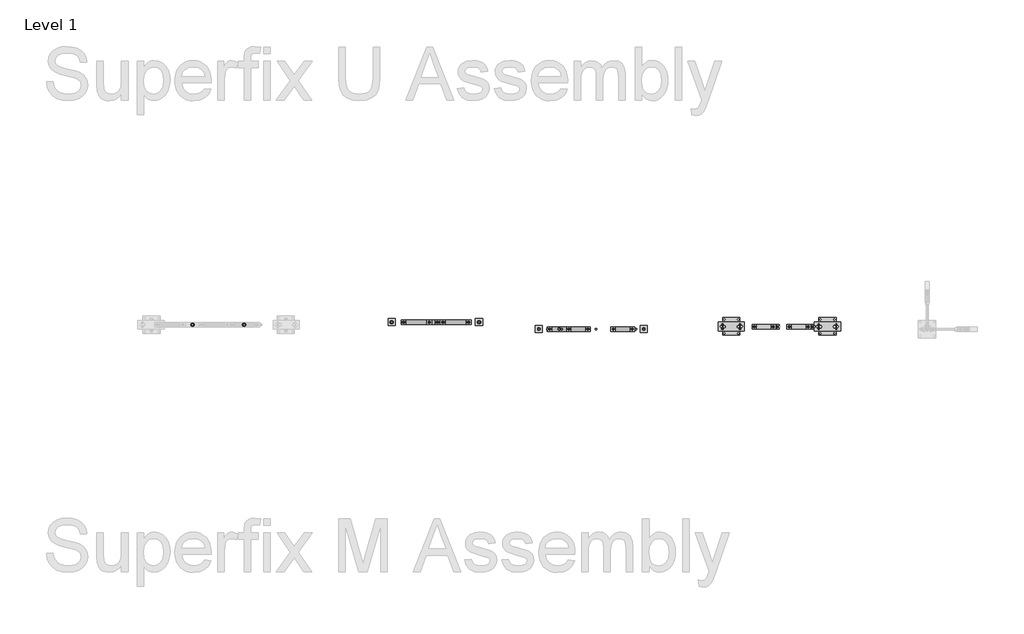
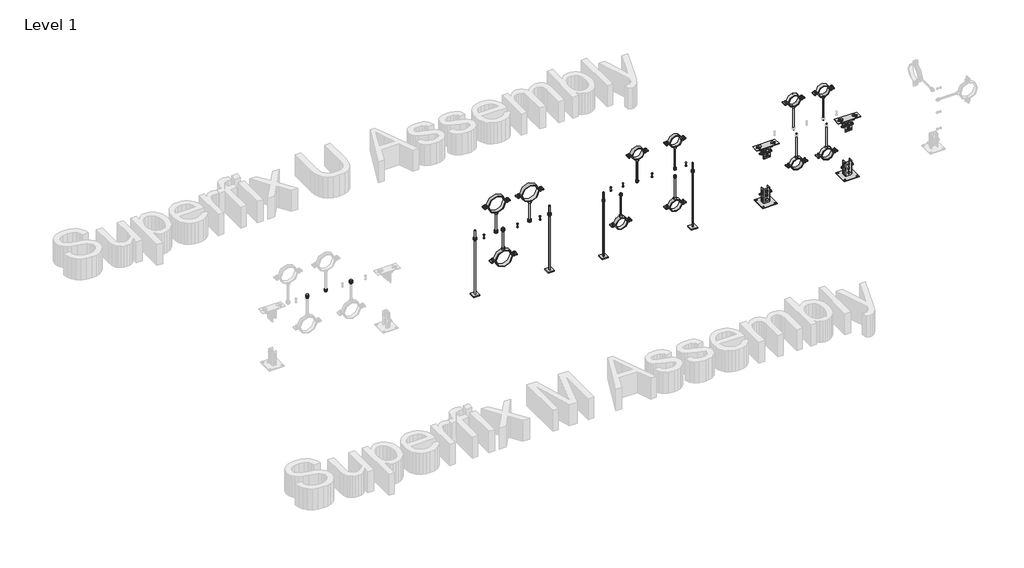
# One storey, part 7 of 32: 142 valves, 4 unitary equipment elements.
"""IFC4 building model written with IfcOpenShell, lengths in millimetres."""

from ifc_helpers import new_model, si_unit, origin, place, context, project, spatial, transform, mapped, element, save
from components import unitary_equipment_e487e5fd, valve_f36d75ac, valve_e67c9111, valve_03d34d46, valve_3ecbcef6, valve_9efe13c8, valve_32e9b142, valve_76fbe92c, valve_fad8a5b8, valve_cdfc1e77, valve_466bc10e, hexagon_nut_galvanized_extra_m10_fcef541f, valve_42e91783, hexagon_nut_galvanized_extra_m8_53389388, superfix_hexagon_screw_galvanized_e39b877e, superfix_hexagon_screw_galvanized_3d7df342, superfix_hexagon_screw_galvanized_39733bb5, superfix_u_bracket_h_0b8578fe, superfix_u_bracket_h_f60a1122

model = new_model("IFC4")

# Units and contexts
model_context = context("Model", 3, world=origin())
ifc_project = project(units=[si_unit("LENGTHUNIT", "METRE", prefix="MILLI")], contexts=[model_context])

# Site, building, storey
site = spatial("IfcSite", under=ifc_project)
building = spatial("IfcBuilding", under=site)
storey = spatial("IfcBuildingStorey", under=building, Name="Level 1", Elevation=0.0)

# Unitary equipment
placement = place(None, origin())
unitary_equipment_shape = unitary_equipment_e487e5fd(model_context)
element("IfcUnitaryEquipment", 1, ObjectType="1_INS_MQA-R : MQA-R", at=placement, inside=storey, context=model_context, shape_type="MappedRepresentation", body=[
    mapped(unitary_equipment_shape, transform((-20585.7699845, 26077.4864226, 0.0), x_axis=(0.0, 1.0, 0.0), y_axis=(-1.0, 0.0, 0.0), z_axis=(0.0, 0.0, 1.0))),
])
element("IfcUnitaryEquipment", 2, ObjectType="1_INS_MQA-R : MQA-R", at=placement, inside=storey, context=model_context, shape_type="MappedRepresentation", body=[
    mapped(unitary_equipment_shape, transform((-20085.7699845, 26077.4864226, 0.0), x_axis=(0.0, 1.0, 0.0), y_axis=(-1.0, 0.0, 0.0), z_axis=(0.0, 0.0, 1.0))),
])
element("IfcUnitaryEquipment", 3, ObjectType="1_INS_MQA-R : MQA-R", at=placement, inside=storey, context=model_context, shape_type="MappedRepresentation", body=[
    mapped(unitary_equipment_shape, transform((-19743.5416666, 26037.7290148, 0.0), x_axis=(0.0, 1.0, 0.0), y_axis=(-1.0, 0.0, 0.0), z_axis=(0.0, 0.0, 1.0))),
])
element("IfcUnitaryEquipment", 4, ObjectType="1_INS_MQA-R : MQA-R", at=placement, inside=storey, context=model_context, shape_type="MappedRepresentation", body=[
    mapped(unitary_equipment_shape, transform((-19143.5416666, 26037.7290148, 0.0), x_axis=(0.0, 1.0, 0.0), y_axis=(-1.0, 0.0, 0.0), z_axis=(0.0, 0.0, 1.0))),
])

# Valves
valve_shape = valve_f36d75ac(model_context)
element("IfcValve", 5, ObjectType="Superfix Threaded Rod (used for clamps) : Threaded Rod - 1000 mm (used for clamps)", at=placement, inside=storey, context=model_context, shape_type="MappedRepresentation", body=[
    mapped(valve_shape, transform((-19743.5416666, 26037.7290148, 0.0), x_axis=(0.0, 0.0, 1.0), y_axis=(1.0, 0.0, 0.0), z_axis=(0.0, 1.0, 0.0))),
])
element("IfcValve", 6, ObjectType="Superfix Threaded Rod (used for clamps) : Threaded Rod - 1000 mm (used for clamps)", at=placement, inside=storey, context=model_context, shape_type="MappedRepresentation", body=[
    mapped(valve_shape, transform((-19143.5416666, 26037.7290148, 0.0), x_axis=(0.0, 0.0, 1.0), y_axis=(1.0, 0.0, 0.0), z_axis=(0.0, 1.0, 0.0))),
])
valve_2_shape = valve_e67c9111(model_context)
element("IfcValve", 7, ObjectType="Superfix Threaded Rod (used for clamps) : Threaded Rod - 1000 mm (used for clamps)", at=placement, inside=storey, context=model_context, shape_type="MappedRepresentation", body=[
    mapped(valve_2_shape, transform((-20585.7699845, 26077.4864226, 0.0), x_axis=(0.0, 0.0, 1.0), y_axis=(1.0, 0.0, 0.0), z_axis=(0.0, 1.0, 0.0))),
])
element("IfcValve", 8, ObjectType="Superfix Threaded Rod (used for clamps) : Threaded Rod - 1000 mm (used for clamps)", at=placement, inside=storey, context=model_context, shape_type="MappedRepresentation", body=[
    mapped(valve_2_shape, transform((-20085.7699845, 26077.4864226, 0.0), x_axis=(0.0, 0.0, 1.0), y_axis=(1.0, 0.0, 0.0), z_axis=(0.0, 1.0, 0.0))),
])
valve_3_shape = valve_03d34d46(model_context)
element("IfcValve", 9, ObjectType="Superfix DG2 Clamp : Superfix DG2 Clamp", at=placement, inside=storey, context=model_context, shape_type="MappedRepresentation", body=[
    mapped(valve_3_shape, transform((-20397.2029133, 26077.4864226, 402.0), x_axis=(0.0, 1.0, 0.0), y_axis=(1.0, 0.0, 0.0), z_axis=(0.0, 0.0, -1.0))),
])
element("IfcValve", 10, ObjectType="Superfix DG2 Clamp : Superfix DG2 Clamp", at=placement, inside=storey, context=model_context, shape_type="MappedRepresentation", body=[
    mapped(valve_3_shape, transform((-20219.1805087, 26077.4864226, 402.0), x_axis=(0.0, 1.0, 0.0), y_axis=(-1.0, 0.0, 0.0), z_axis=(0.0, 0.0, 1.0))),
])
element("IfcValve", 11, ObjectType="Superfix DG2 Clamp : Superfix DG2 Clamp", at=placement, inside=storey, context=model_context, shape_type="MappedRepresentation", body=[
    mapped(valve_3_shape, transform((-20444.5631967, 26077.4864226, 402.0), x_axis=(0.0, 1.0, 0.0), y_axis=(-1.0, 0.0, 0.0), z_axis=(0.0, 0.0, 1.0))),
])
valve_4_shape = valve_3ecbcef6(model_context)
element("IfcValve", 12, ObjectType="Superfix Threaded Rod (used for clamps) : Threaded Rod - 1000 mm (used for clamps)", at=placement, inside=storey, context=model_context, shape_type="MappedRepresentation", body=[
    mapped(valve_4_shape, transform((-20397.2029133, 26077.4864226, 402.0), x_axis=(0.0, 0.0, -1.0), y_axis=(-1.0, 0.0, 0.0), z_axis=(0.0, 1.0, 0.0))),
])
element("IfcValve", 13, ObjectType="Superfix Threaded Rod (used for clamps) : Threaded Rod - 1000 mm (used for clamps)", at=placement, inside=storey, context=model_context, shape_type="MappedRepresentation", body=[
    mapped(valve_4_shape, transform((-20219.1805087, 26077.4864226, 402.0), x_axis=(0.0, 0.0, 1.0), y_axis=(1.0, 0.0, 0.0), z_axis=(0.0, 1.0, 0.0))),
])
element("IfcValve", 14, ObjectType="Superfix Threaded Rod (used for clamps) : Threaded Rod - 1000 mm (used for clamps)", at=placement, inside=storey, context=model_context, shape_type="MappedRepresentation", body=[
    mapped(valve_4_shape, transform((-20444.5631967, 26077.4864226, 402.0), x_axis=(0.0, 0.0, 1.0), y_axis=(1.0, 0.0, 0.0), z_axis=(0.0, 1.0, 0.0))),
])
valve_5_shape = valve_9efe13c8(model_context)
element("IfcValve", 15, ObjectType="Superfix DG2 Clamp : Superfix DG2 Clamp", at=placement, inside=storey, context=model_context, shape_type="MappedRepresentation", body=[
    mapped(valve_5_shape, transform((-19627.6756997, 26037.7290148, 405.0), x_axis=(0.0, 1.0, 0.0), y_axis=(1.0, 0.0, 0.0), z_axis=(0.0, 0.0, -1.0))),
])
element("IfcValve", 16, ObjectType="Superfix DG2 Clamp : Superfix DG2 Clamp", at=placement, inside=storey, context=model_context, shape_type="MappedRepresentation", body=[
    mapped(valve_5_shape, transform((-19517.610098, 26037.7290148, 460.0), x_axis=(0.0, 1.0, 0.0), y_axis=(-1.0, 0.0, 0.0), z_axis=(0.0, 0.0, 1.0))),
])
element("IfcValve", 17, ObjectType="Superfix DG2 Clamp : Superfix DG2 Clamp", at=placement, inside=storey, context=model_context, shape_type="MappedRepresentation", body=[
    mapped(valve_5_shape, transform((-19264.0416666, 26037.7290148, 460.0), x_axis=(0.0, 1.0, 0.0), y_axis=(-1.0, 0.0, 0.0), z_axis=(0.0, 0.0, 1.0))),
])
element("IfcValve", 18, ObjectType="Superfix DG2 Clamp : Superfix DG2 Clamp", at=placement, inside=storey, context=model_context, shape_type="MappedRepresentation", body=[
    mapped(valve_5_shape, transform((-19263.3731959, 26037.7290148, 405.0), x_axis=(0.0, 1.0, 0.0), y_axis=(1.0, 0.0, 0.0), z_axis=(0.0, 0.0, -1.0))),
])
element("IfcValve", 19, ObjectType="Superfix DG2 Clamp : Superfix DG2 Clamp", at=placement, inside=storey, context=model_context, shape_type="MappedRepresentation", body=[
    mapped(valve_5_shape, transform((-18456.8086693, 26051.6868075, 457.0), x_axis=(0.0, -1.0, 0.0), y_axis=(1.0, 0.0, 0.0), z_axis=(0.0, 0.0, 1.0))),
])
element("IfcValve", 20, ObjectType="Superfix DG2 Clamp : Superfix DG2 Clamp", at=placement, inside=storey, context=model_context, shape_type="MappedRepresentation", body=[
    mapped(valve_5_shape, transform((-18256.8086693, 26051.6868075, 457.0), x_axis=(0.0, -1.0, 0.0), y_axis=(1.0, 0.0, 0.0), z_axis=(0.0, 0.0, 1.0))),
])
element("IfcValve", 21, ObjectType="Superfix DG2 Clamp : Superfix DG2 Clamp", at=placement, inside=storey, context=model_context, shape_type="MappedRepresentation", body=[
    mapped(valve_5_shape, transform((-18436.8991741, 26051.6868075, 402.0), x_axis=(0.0, -1.0, 0.0), y_axis=(-1.0, 0.0, 0.0), z_axis=(0.0, 0.0, -1.0))),
])
element("IfcValve", 22, ObjectType="Superfix DG2 Clamp : Superfix DG2 Clamp", at=placement, inside=storey, context=model_context, shape_type="MappedRepresentation", body=[
    mapped(valve_5_shape, transform((-18234.6207056, 26051.6868075, 402.0), x_axis=(0.0, -1.0, 0.0), y_axis=(-1.0, 0.0, 0.0), z_axis=(0.0, 0.0, -1.0))),
])
valve_6_shape = valve_32e9b142(model_context)
element("IfcValve", 23, ObjectType="Superfix Threaded Rod (used for clamps) : Threaded Rod - 1000 mm (used for clamps)", at=placement, inside=storey, context=model_context, shape_type="MappedRepresentation", body=[
    mapped(valve_6_shape, transform((-19627.6756997, 26037.7290148, 405.0), x_axis=(0.0, 0.0, -1.0), y_axis=(-1.0, 0.0, 0.0), z_axis=(0.0, 1.0, 0.0))),
])
element("IfcValve", 24, ObjectType="Superfix Threaded Rod (used for clamps) : Threaded Rod - 1000 mm (used for clamps)", at=placement, inside=storey, context=model_context, shape_type="MappedRepresentation", body=[
    mapped(valve_6_shape, transform((-19517.610098, 26037.7290148, 460.0), x_axis=(0.0, 0.0, 1.0), y_axis=(1.0, 0.0, 0.0), z_axis=(0.0, 1.0, 0.0))),
])
element("IfcValve", 25, ObjectType="Superfix Threaded Rod (used for clamps) : Threaded Rod - 1000 mm (used for clamps)", at=placement, inside=storey, context=model_context, shape_type="MappedRepresentation", body=[
    mapped(valve_6_shape, transform((-19264.0416666, 26037.7290148, 460.0), x_axis=(0.0, 0.0, 1.0), y_axis=(1.0, 0.0, 0.0), z_axis=(0.0, 1.0, 0.0))),
])
element("IfcValve", 26, ObjectType="Superfix Threaded Rod (used for clamps) : Threaded Rod - 1000 mm (used for clamps)", at=placement, inside=storey, context=model_context, shape_type="MappedRepresentation", body=[
    mapped(valve_6_shape, transform((-19263.3731959, 26037.7290148, 405.0), x_axis=(0.0, 0.0, -1.0), y_axis=(-1.0, 0.0, 0.0), z_axis=(0.0, 1.0, 0.0))),
])
element("IfcValve", 27, ObjectType="Superfix Threaded Rod (used for clamps) : Threaded Rod - 1000 mm (used for clamps)", at=placement, inside=storey, context=model_context, shape_type="MappedRepresentation", body=[
    mapped(valve_6_shape, transform((-18456.8086693, 26051.6868075, 457.0), x_axis=(0.0, 0.0, 1.0), y_axis=(-1.0, 0.0, 0.0), z_axis=(0.0, -1.0, 0.0))),
])
element("IfcValve", 28, ObjectType="Superfix Threaded Rod (used for clamps) : Threaded Rod - 1000 mm (used for clamps)", at=placement, inside=storey, context=model_context, shape_type="MappedRepresentation", body=[
    mapped(valve_6_shape, transform((-18256.8086693, 26051.6868075, 457.0), x_axis=(0.0, 0.0, 1.0), y_axis=(-1.0, 0.0, 0.0), z_axis=(0.0, -1.0, 0.0))),
])
element("IfcValve", 29, ObjectType="Superfix Threaded Rod (used for clamps) : Threaded Rod - 1000 mm (used for clamps)", at=placement, inside=storey, context=model_context, shape_type="MappedRepresentation", body=[
    mapped(valve_6_shape, transform((-18436.8991741, 26051.6868075, 402.0), x_axis=(0.0, 0.0, -1.0), y_axis=(1.0, 0.0, 0.0), z_axis=(0.0, -1.0, 0.0))),
])
element("IfcValve", 30, ObjectType="Superfix Threaded Rod (used for clamps) : Threaded Rod - 1000 mm (used for clamps)", at=placement, inside=storey, context=model_context, shape_type="MappedRepresentation", body=[
    mapped(valve_6_shape, transform((-18234.6207056, 26051.6868075, 402.0), x_axis=(0.0, 0.0, -1.0), y_axis=(1.0, 0.0, 0.0), z_axis=(0.0, -1.0, 0.0))),
])
valve_7_shape = valve_76fbe92c(model_context)
element("IfcValve", 31, ObjectType="Superfix Flat Washer : Superfix Flat Washer M4x10x1", at=placement, inside=storey, context=model_context, shape_type="MappedRepresentation", body=[
    mapped(valve_7_shape, transform((-19416.9847143, 26037.7290148, 457.991136), x_axis=(1.0, 0.0, 0.0), y_axis=(0.0, -1.0, 0.0), z_axis=(0.0, 0.0, -1.0))),
])
element("IfcValve", 32, ObjectType="Superfix Flat Washer : Superfix Flat Washer M4x10x1", at=placement, inside=storey, context=model_context, shape_type="MappedRepresentation", body=[
    mapped(valve_7_shape, transform((-19188.7687575, 26037.7290148, 457.991136), x_axis=(1.0, 0.0, 0.0), y_axis=(0.0, -1.0, 0.0), z_axis=(0.0, 0.0, -1.0))),
])
element("IfcValve", 33, ObjectType="Superfix Flat Washer : Superfix Flat Washer M4x10x1", at=placement, inside=storey, context=model_context, shape_type="MappedRepresentation", body=[
    mapped(valve_7_shape, transform((-19694.9777548, 26037.7290148, 457.991136), x_axis=(1.0, 0.0, 0.0), y_axis=(0.0, -1.0, 0.0), z_axis=(0.0, 0.0, -1.0))),
])
element("IfcValve", 34, ObjectType="Superfix Flat Washer : Superfix Flat Washer M4x10x1", at=placement, inside=storey, context=model_context, shape_type="MappedRepresentation", body=[
    mapped(valve_7_shape, transform((-19613.1287575, 26037.7290148, 457.991136), x_axis=(1.0, 0.0, 0.0), y_axis=(0.0, -1.0, 0.0), z_axis=(0.0, 0.0, -1.0))),
])
element("IfcValve", 35, ObjectType="Superfix Flat Washer : Superfix Flat Washer M4x10x1", at=placement, inside=storey, context=model_context, shape_type="MappedRepresentation", body=[
    mapped(valve_7_shape, transform((-20300.1570044, 26077.4864226, 404.008864), x_axis=(1.0, 0.0, 0.0), y_axis=(0.0, 1.0, 0.0), z_axis=(0.0, 0.0, 1.0))),
])
element("IfcValve", 36, ObjectType="Superfix Flat Washer : Superfix Flat Washer M4x10x1", at=placement, inside=storey, context=model_context, shape_type="MappedRepresentation", body=[
    mapped(valve_7_shape, transform((-20148.0170411, 26077.4864226, 404.008864), x_axis=(1.0, 0.0, 0.0), y_axis=(0.0, 1.0, 0.0), z_axis=(0.0, 0.0, 1.0))),
])
element("IfcValve", 37, ObjectType="Superfix Flat Washer : Superfix Flat Washer M4x10x1", at=placement, inside=storey, context=model_context, shape_type="MappedRepresentation", body=[
    mapped(valve_7_shape, transform((-20526.5481856, 26077.4864226, 404.008864), x_axis=(1.0, 0.0, 0.0), y_axis=(0.0, 1.0, 0.0), z_axis=(0.0, 0.0, 1.0))),
])
valve_8_shape = valve_fad8a5b8(model_context)
element("IfcValve", 38, ObjectType="Superfix Flat Washer : Superfix Flat Washer M8x15x1.5", at=placement, inside=storey, context=model_context, shape_type="MappedRepresentation", body=[
    mapped(valve_8_shape, transform((-18093.1455908, 26043.1868075, 375.0), x_axis=(-1.0, 0.0, 0.0), y_axis=(0.0, 0.0, 1.0), z_axis=(0.0, 1.0, 0.0))),
])
element("IfcValve", 39, ObjectType="Superfix Flat Washer : Superfix Flat Washer M8x15x1.5", at=placement, inside=storey, context=model_context, shape_type="MappedRepresentation", body=[
    mapped(valve_8_shape, transform((-18093.1455908, 26043.1868075, 25.0), x_axis=(-1.0, 0.0, 0.0), y_axis=(0.0, 0.0, 1.0), z_axis=(0.0, 1.0, 0.0))),
])
element("IfcValve", 40, ObjectType="Superfix Flat Washer : Superfix Flat Washer M8x15x1.5", at=placement, inside=storey, context=model_context, shape_type="MappedRepresentation", body=[
    mapped(valve_8_shape, transform((-18643.1455908, 26043.1868075, 25.0), x_axis=(-1.0, 0.0, 0.0), y_axis=(0.0, 0.0, 1.0), z_axis=(0.0, 1.0, 0.0))),
])
element("IfcValve", 41, ObjectType="Superfix Flat Washer : Superfix Flat Washer M8x15x1.5", at=placement, inside=storey, context=model_context, shape_type="MappedRepresentation", body=[
    mapped(valve_8_shape, transform((-18643.1455908, 26043.1868075, 375.0), x_axis=(-1.0, 0.0, 0.0), y_axis=(0.0, 0.0, 1.0), z_axis=(0.0, 1.0, 0.0))),
])
element("IfcValve", 42, ObjectType="Superfix Flat Washer : Superfix Flat Washer M8x15x1.5", at=placement, inside=storey, context=model_context, shape_type="MappedRepresentation", body=[
    mapped(valve_8_shape, transform((-18673.7455908, 26051.6868075, 65.0), x_axis=(0.0, 1.0, 0.0), y_axis=(0.0, 0.0, 1.0), z_axis=(1.0, 0.0, 0.0))),
])
element("IfcValve", 43, ObjectType="Superfix Flat Washer : Superfix Flat Washer M8x15x1.5", at=placement, inside=storey, context=model_context, shape_type="MappedRepresentation", body=[
    mapped(valve_8_shape, transform((-18123.2455908, 26051.6868075, 65.0), x_axis=(0.0, 1.0, 0.0), y_axis=(0.0, 0.0, 1.0), z_axis=(1.0, 0.0, 0.0))),
])
element("IfcValve", 44, ObjectType="Superfix Flat Washer : Superfix Flat Washer M8x15x1.5", at=placement, inside=storey, context=model_context, shape_type="MappedRepresentation", body=[
    mapped(valve_8_shape, transform((-18673.7455908, 26051.6868075, 353.4852002), x_axis=(0.0, 1.0, 0.0), y_axis=(0.0, 0.0, 1.0), z_axis=(1.0, 0.0, 0.0))),
])
element("IfcValve", 45, ObjectType="Superfix Flat Washer : Superfix Flat Washer M8x15x1.5", at=placement, inside=storey, context=model_context, shape_type="MappedRepresentation", body=[
    mapped(valve_8_shape, transform((-18123.2455908, 26051.6868075, 353.4852002), x_axis=(0.0, 1.0, 0.0), y_axis=(0.0, 0.0, 1.0), z_axis=(1.0, 0.0, 0.0))),
])
element("IfcValve", 46, ObjectType="Superfix Flat Washer : Superfix Flat Washer M8x15x1.5", at=placement, inside=storey, context=model_context, shape_type="MappedRepresentation", body=[
    mapped(valve_8_shape, transform((-18133.1455908, 26051.6868075, 398.4), x_axis=(0.0, 1.0, 0.0), y_axis=(-1.0, 0.0, 0.0), z_axis=(0.0, 0.0, 1.0))),
])
element("IfcValve", 47, ObjectType="Superfix Flat Washer : Superfix Flat Washer M8x15x1.5", at=placement, inside=storey, context=model_context, shape_type="MappedRepresentation", body=[
    mapped(valve_8_shape, transform((-18053.1455908, 26051.6868075, 398.4), x_axis=(0.0, 1.0, 0.0), y_axis=(-1.0, 0.0, 0.0), z_axis=(0.0, 0.0, 1.0))),
])
element("IfcValve", 48, ObjectType="Superfix Flat Washer : Superfix Flat Washer M8x15x1.5", at=placement, inside=storey, context=model_context, shape_type="MappedRepresentation", body=[
    mapped(valve_8_shape, transform((-18603.1455908, 26051.6868075, 398.4), x_axis=(0.0, 1.0, 0.0), y_axis=(-1.0, 0.0, 0.0), z_axis=(0.0, 0.0, 1.0))),
])
element("IfcValve", 49, ObjectType="Superfix Flat Washer : Superfix Flat Washer M8x15x1.5", at=placement, inside=storey, context=model_context, shape_type="MappedRepresentation", body=[
    mapped(valve_8_shape, transform((-18683.1455908, 26051.6868075, 398.4), x_axis=(0.0, 1.0, 0.0), y_axis=(-1.0, 0.0, 0.0), z_axis=(0.0, 0.0, 1.0))),
])
element("IfcValve", 50, ObjectType="Superfix Flat Washer : Superfix Flat Washer M8x15x1.5", at=placement, inside=storey, context=model_context, shape_type="MappedRepresentation", body=[
    mapped(valve_8_shape, transform((-19743.5416666, 26037.7290148, 403.0), x_axis=(0.0, 1.0, 0.0), y_axis=(-1.0, 0.0, 0.0), z_axis=(0.0, 0.0, 1.0))),
])
element("IfcValve", 51, ObjectType="Superfix Flat Washer : Superfix Flat Washer M8x15x1.5", at=placement, inside=storey, context=model_context, shape_type="MappedRepresentation", body=[
    mapped(valve_8_shape, transform((-19743.5416666, 26037.7290148, 398.4), x_axis=(0.0, 1.0, 0.0), y_axis=(-1.0, 0.0, 0.0), z_axis=(0.0, 0.0, 1.0))),
])
element("IfcValve", 52, ObjectType="Superfix Flat Washer : Superfix Flat Washer M8x15x1.5", at=placement, inside=storey, context=model_context, shape_type="MappedRepresentation", body=[
    mapped(valve_8_shape, transform((-19143.5416666, 26037.7290148, 398.4), x_axis=(0.0, 1.0, 0.0), y_axis=(-1.0, 0.0, 0.0), z_axis=(0.0, 0.0, 1.0))),
])
element("IfcValve", 53, ObjectType="Superfix Flat Washer : Superfix Flat Washer M8x15x1.5", at=placement, inside=storey, context=model_context, shape_type="MappedRepresentation", body=[
    mapped(valve_8_shape, transform((-19143.5416666, 26037.7290148, 403.0), x_axis=(0.0, 1.0, 0.0), y_axis=(-1.0, 0.0, 0.0), z_axis=(0.0, 0.0, 1.0))),
])
element("IfcValve", 54, ObjectType="Superfix Flat Washer : Superfix Flat Washer M8x15x1.5", at=placement, inside=storey, context=model_context, shape_type="MappedRepresentation", body=[
    mapped(valve_8_shape, transform((-19264.0416666, 26037.7290148, 463.0), x_axis=(0.0, 1.0, 0.0), y_axis=(-1.0, 0.0, 0.0), z_axis=(0.0, 0.0, 1.0))),
])
element("IfcValve", 55, ObjectType="Superfix Flat Washer : Superfix Flat Washer M8x15x1.5", at=placement, inside=storey, context=model_context, shape_type="MappedRepresentation", body=[
    mapped(valve_8_shape, transform((-19264.0416666, 26037.7290148, 458.4), x_axis=(0.0, 1.0, 0.0), y_axis=(-1.0, 0.0, 0.0), z_axis=(0.0, 0.0, 1.0))),
])
element("IfcValve", 56, ObjectType="Superfix Flat Washer : Superfix Flat Washer M8x15x1.5", at=placement, inside=storey, context=model_context, shape_type="MappedRepresentation", body=[
    mapped(valve_8_shape, transform((-19627.6756997, 26037.7290148, 402.0), x_axis=(0.0, 1.0, 0.0), y_axis=(1.0, 0.0, 0.0), z_axis=(0.0, 0.0, -1.0))),
])
element("IfcValve", 57, ObjectType="Superfix Flat Washer : Superfix Flat Washer M8x15x1.5", at=placement, inside=storey, context=model_context, shape_type="MappedRepresentation", body=[
    mapped(valve_8_shape, transform((-19627.6756997, 26037.7290148, 406.6), x_axis=(0.0, 1.0, 0.0), y_axis=(1.0, 0.0, 0.0), z_axis=(0.0, 0.0, -1.0))),
])
element("IfcValve", 58, ObjectType="Superfix Flat Washer : Superfix Flat Washer M8x15x1.5", at=placement, inside=storey, context=model_context, shape_type="MappedRepresentation", body=[
    mapped(valve_8_shape, transform((-19517.610098, 26037.7290148, 463.0), x_axis=(0.0, 1.0, 0.0), y_axis=(-1.0, 0.0, 0.0), z_axis=(0.0, 0.0, 1.0))),
])
element("IfcValve", 59, ObjectType="Superfix Flat Washer : Superfix Flat Washer M8x15x1.5", at=placement, inside=storey, context=model_context, shape_type="MappedRepresentation", body=[
    mapped(valve_8_shape, transform((-19517.610098, 26037.7290148, 458.4), x_axis=(0.0, 1.0, 0.0), y_axis=(-1.0, 0.0, 0.0), z_axis=(0.0, 0.0, 1.0))),
])
element("IfcValve", 60, ObjectType="Superfix Flat Washer : Superfix Flat Washer M8x15x1.5", at=placement, inside=storey, context=model_context, shape_type="MappedRepresentation", body=[
    mapped(valve_8_shape, transform((-19263.3731959, 26037.7290148, 402.0), x_axis=(0.0, 1.0, 0.0), y_axis=(1.0, 0.0, 0.0), z_axis=(0.0, 0.0, -1.0))),
])
element("IfcValve", 61, ObjectType="Superfix Flat Washer : Superfix Flat Washer M8x15x1.5", at=placement, inside=storey, context=model_context, shape_type="MappedRepresentation", body=[
    mapped(valve_8_shape, transform((-19263.3731959, 26037.7290148, 406.6), x_axis=(0.0, 1.0, 0.0), y_axis=(1.0, 0.0, 0.0), z_axis=(0.0, 0.0, -1.0))),
])
valve_9_shape = valve_cdfc1e77(model_context)
element("IfcValve", 62, ObjectType="Superfix Flat Washer : Superfix Flat Washer M10x20x1.5", at=placement, inside=storey, context=model_context, shape_type="MappedRepresentation", body=[
    mapped(valve_9_shape, transform((-20585.7699845, 26077.4864226, 403.0), x_axis=(0.0, 1.0, 0.0), y_axis=(-1.0, 0.0, 0.0), z_axis=(0.0, 0.0, 1.0))),
])
element("IfcValve", 63, ObjectType="Superfix Flat Washer : Superfix Flat Washer M10x20x1.5", at=placement, inside=storey, context=model_context, shape_type="MappedRepresentation", body=[
    mapped(valve_9_shape, transform((-20585.7699845, 26077.4864226, 398.0), x_axis=(0.0, 1.0, 0.0), y_axis=(-1.0, 0.0, 0.0), z_axis=(0.0, 0.0, 1.0))),
])
element("IfcValve", 64, ObjectType="Superfix Flat Washer : Superfix Flat Washer M10x20x1.5", at=placement, inside=storey, context=model_context, shape_type="MappedRepresentation", body=[
    mapped(valve_9_shape, transform((-20085.7699845, 26077.4864226, 398.0), x_axis=(0.0, 1.0, 0.0), y_axis=(-1.0, 0.0, 0.0), z_axis=(0.0, 0.0, 1.0))),
])
element("IfcValve", 65, ObjectType="Superfix Flat Washer : Superfix Flat Washer M10x20x1.5", at=placement, inside=storey, context=model_context, shape_type="MappedRepresentation", body=[
    mapped(valve_9_shape, transform((-20085.7699845, 26077.4864226, 403.0), x_axis=(0.0, 1.0, 0.0), y_axis=(-1.0, 0.0, 0.0), z_axis=(0.0, 0.0, 1.0))),
])
element("IfcValve", 66, ObjectType="Superfix Flat Washer : Superfix Flat Washer M10x20x1.5", at=placement, inside=storey, context=model_context, shape_type="MappedRepresentation", body=[
    mapped(valve_9_shape, transform((-21600.1711936, 26062.3269188, 405.0), x_axis=(0.0, 1.0, 0.0), y_axis=(-1.0, 0.0, 0.0), z_axis=(0.0, 0.0, 1.0))),
])
element("IfcValve", 67, ObjectType="Superfix Flat Washer : Superfix Flat Washer M10x20x1.5", at=placement, inside=storey, context=model_context, shape_type="MappedRepresentation", body=[
    mapped(valve_9_shape, transform((-21600.1711936, 26062.3269188, 400.0), x_axis=(0.0, 1.0, 0.0), y_axis=(-1.0, 0.0, 0.0), z_axis=(0.0, 0.0, 1.0))),
])
element("IfcValve", 68, ObjectType="Superfix Flat Washer : Superfix Flat Washer M10x20x1.5", at=placement, inside=storey, context=model_context, shape_type="MappedRepresentation", body=[
    mapped(valve_9_shape, transform((-21429.3211936, 26062.3269188, 399.0), x_axis=(0.0, 1.0, 0.0), y_axis=(1.0, 0.0, 0.0), z_axis=(0.0, 0.0, -1.0))),
])
element("IfcValve", 69, ObjectType="Superfix Flat Washer : Superfix Flat Washer M10x20x1.5", at=placement, inside=storey, context=model_context, shape_type="MappedRepresentation", body=[
    mapped(valve_9_shape, transform((-21429.3211936, 26062.3269188, 404.0), x_axis=(0.0, 1.0, 0.0), y_axis=(1.0, 0.0, 0.0), z_axis=(0.0, 0.0, -1.0))),
])
element("IfcValve", 70, ObjectType="Superfix Flat Washer : Superfix Flat Washer M10x20x1.5", at=placement, inside=storey, context=model_context, shape_type="MappedRepresentation", body=[
    mapped(valve_9_shape, transform((-21725.0211936, 26062.3269188, 399.0), x_axis=(0.0, 1.0, 0.0), y_axis=(1.0, 0.0, 0.0), z_axis=(0.0, 0.0, -1.0))),
])
element("IfcValve", 71, ObjectType="Superfix Flat Washer : Superfix Flat Washer M10x20x1.5", at=placement, inside=storey, context=model_context, shape_type="MappedRepresentation", body=[
    mapped(valve_9_shape, transform((-21725.0211936, 26062.3269188, 404.0), x_axis=(0.0, 1.0, 0.0), y_axis=(1.0, 0.0, 0.0), z_axis=(0.0, 0.0, -1.0))),
])
element("IfcValve", 72, ObjectType="Superfix Flat Washer : Superfix Flat Washer M10x20x1.5", at=placement, inside=storey, context=model_context, shape_type="MappedRepresentation", body=[
    mapped(valve_9_shape, transform((-20397.2029133, 26077.4864226, 399.0), x_axis=(0.0, 1.0, 0.0), y_axis=(1.0, 0.0, 0.0), z_axis=(0.0, 0.0, -1.0))),
])
element("IfcValve", 73, ObjectType="Superfix Flat Washer : Superfix Flat Washer M10x20x1.5", at=placement, inside=storey, context=model_context, shape_type="MappedRepresentation", body=[
    mapped(valve_9_shape, transform((-20397.2029133, 26077.4864226, 404.0), x_axis=(0.0, 1.0, 0.0), y_axis=(1.0, 0.0, 0.0), z_axis=(0.0, 0.0, -1.0))),
])
element("IfcValve", 74, ObjectType="Superfix Flat Washer : Superfix Flat Washer M10x20x1.5", at=placement, inside=storey, context=model_context, shape_type="MappedRepresentation", body=[
    mapped(valve_9_shape, transform((-20219.1805087, 26077.4864226, 405.0), x_axis=(0.0, 1.0, 0.0), y_axis=(-1.0, 0.0, 0.0), z_axis=(0.0, 0.0, 1.0))),
])
element("IfcValve", 75, ObjectType="Superfix Flat Washer : Superfix Flat Washer M10x20x1.5", at=placement, inside=storey, context=model_context, shape_type="MappedRepresentation", body=[
    mapped(valve_9_shape, transform((-20219.1805087, 26077.4864226, 400.0), x_axis=(0.0, 1.0, 0.0), y_axis=(-1.0, 0.0, 0.0), z_axis=(0.0, 0.0, 1.0))),
])
element("IfcValve", 76, ObjectType="Superfix Flat Washer : Superfix Flat Washer M10x20x1.5", at=placement, inside=storey, context=model_context, shape_type="MappedRepresentation", body=[
    mapped(valve_9_shape, transform((-20444.5631967, 26077.4864226, 405.0), x_axis=(0.0, 1.0, 0.0), y_axis=(-1.0, 0.0, 0.0), z_axis=(0.0, 0.0, 1.0))),
])
element("IfcValve", 77, ObjectType="Superfix Flat Washer : Superfix Flat Washer M10x20x1.5", at=placement, inside=storey, context=model_context, shape_type="MappedRepresentation", body=[
    mapped(valve_9_shape, transform((-20444.5631967, 26077.4864226, 400.0), x_axis=(0.0, 1.0, 0.0), y_axis=(-1.0, 0.0, 0.0), z_axis=(0.0, 0.0, 1.0))),
])
valve_10_shape = valve_466bc10e(model_context)
element("IfcValve", 78, ObjectType="SuperFix U Wall Plate  : SuperFix U Wall Plate ", at=placement, inside=storey, context=model_context, shape_type="MappedRepresentation", body=[
    mapped(valve_10_shape, transform((-18093.1455908, 26039.1868075, -4.0), x_axis=(0.0, 0.0, -1.0), y_axis=(-1.0, 0.0, 0.0), z_axis=(0.0, 1.0, 0.0))),
])
element("IfcValve", 79, ObjectType="SuperFix U Wall Plate  : SuperFix U Wall Plate ", at=placement, inside=storey, context=model_context, shape_type="MappedRepresentation", body=[
    mapped(valve_10_shape, transform((-18643.1455908, 26039.1868075, -4.0), x_axis=(0.0, 0.0, -1.0), y_axis=(-1.0, 0.0, 0.0), z_axis=(0.0, 1.0, 0.0))),
])
hexagon_nut_galvanized_extra_m10_shape = hexagon_nut_galvanized_extra_m10_fcef541f(model_context)
element("IfcValve", 80, ObjectType="Superfix Hexagon Nut Galvanized : Hexagon Nut Galvanized M10", at=placement, inside=storey, context=model_context, shape_type="MappedRepresentation", body=[
    mapped(hexagon_nut_galvanized_extra_m10_shape, transform((-20085.7699845, 26077.4864226, 400.0), x_axis=(0.0, 1.0, 0.0), y_axis=(1.0, 0.0, 0.0), z_axis=(0.0, 0.0, -1.0))),
])
element("IfcValve", 81, ObjectType="Superfix Hexagon Nut Galvanized : Hexagon Nut Galvanized M10", at=placement, inside=storey, context=model_context, shape_type="MappedRepresentation", body=[
    mapped(hexagon_nut_galvanized_extra_m10_shape, transform((-20585.7699845, 26077.4864226, 400.0), x_axis=(0.0, 1.0, 0.0), y_axis=(1.0, 0.0, 0.0), z_axis=(0.0, 0.0, -1.0))),
])
element("IfcValve", 82, ObjectType="Superfix Hexagon Nut Galvanized : Hexagon Nut Galvanized M10", at=placement, inside=storey, context=model_context, shape_type="MappedRepresentation", body=[
    mapped(hexagon_nut_galvanized_extra_m10_shape, transform((-20585.7699845, 26077.4864226, 403.0), x_axis=(0.0, 1.0, 0.0), y_axis=(-1.0, 0.0, 0.0), z_axis=(0.0, 0.0, 1.0))),
])
element("IfcValve", 83, ObjectType="Superfix Hexagon Nut Galvanized : Hexagon Nut Galvanized M10", at=placement, inside=storey, context=model_context, shape_type="MappedRepresentation", body=[
    mapped(hexagon_nut_galvanized_extra_m10_shape, transform((-20085.7699845, 26077.4864226, 403.0), x_axis=(0.0, 1.0, 0.0), y_axis=(-1.0, 0.0, 0.0), z_axis=(0.0, 0.0, 1.0))),
])
element("IfcValve", 84, ObjectType="Superfix Hexagon Nut Galvanized : Hexagon Nut Galvanized M10", at=placement, inside=storey, context=model_context, shape_type="MappedRepresentation", body=[
    mapped(hexagon_nut_galvanized_extra_m10_shape, transform((-21600.1711936, 26062.3269188, 394.0), x_axis=(0.0, 1.0, 0.0), y_axis=(-1.0, 0.0, 0.0), z_axis=(0.0, 0.0, 1.0))),
])
element("IfcValve", 85, ObjectType="Superfix Hexagon Nut Galvanized : Hexagon Nut Galvanized M10", at=placement, inside=storey, context=model_context, shape_type="MappedRepresentation", body=[
    mapped(hexagon_nut_galvanized_extra_m10_shape, transform((-21429.3211936, 26062.3269188, 399.0), x_axis=(0.0, 1.0, 0.0), y_axis=(1.0, 0.0, 0.0), z_axis=(0.0, 0.0, -1.0))),
])
element("IfcValve", 86, ObjectType="Superfix Hexagon Nut Galvanized : Hexagon Nut Galvanized M10", at=placement, inside=storey, context=model_context, shape_type="MappedRepresentation", body=[
    mapped(hexagon_nut_galvanized_extra_m10_shape, transform((-21429.3211936, 26062.3269188, 410.0), x_axis=(0.0, 1.0, 0.0), y_axis=(1.0, 0.0, 0.0), z_axis=(0.0, 0.0, -1.0))),
])
element("IfcValve", 87, ObjectType="Superfix Hexagon Nut Galvanized : Hexagon Nut Galvanized M10", at=placement, inside=storey, context=model_context, shape_type="MappedRepresentation", body=[
    mapped(hexagon_nut_galvanized_extra_m10_shape, transform((-21725.0211936, 26062.3269188, 399.0), x_axis=(0.0, 1.0, 0.0), y_axis=(1.0, 0.0, 0.0), z_axis=(0.0, 0.0, -1.0))),
])
element("IfcValve", 88, ObjectType="Superfix Hexagon Nut Galvanized : Hexagon Nut Galvanized M10", at=placement, inside=storey, context=model_context, shape_type="MappedRepresentation", body=[
    mapped(hexagon_nut_galvanized_extra_m10_shape, transform((-21725.0211936, 26062.3269188, 410.0), x_axis=(0.0, 1.0, 0.0), y_axis=(1.0, 0.0, 0.0), z_axis=(0.0, 0.0, -1.0))),
])
element("IfcValve", 89, ObjectType="Superfix Hexagon Nut Galvanized : Hexagon Nut Galvanized M10", at=placement, inside=storey, context=model_context, shape_type="MappedRepresentation", body=[
    mapped(hexagon_nut_galvanized_extra_m10_shape, transform((-20397.2029133, 26077.4864226, 399.0), x_axis=(0.0, 1.0, 0.0), y_axis=(1.0, 0.0, 0.0), z_axis=(0.0, 0.0, -1.0))),
])
element("IfcValve", 90, ObjectType="Superfix Hexagon Nut Galvanized : Hexagon Nut Galvanized M10", at=placement, inside=storey, context=model_context, shape_type="MappedRepresentation", body=[
    mapped(hexagon_nut_galvanized_extra_m10_shape, transform((-20397.2029133, 26077.4864226, 410.0), x_axis=(0.0, 1.0, 0.0), y_axis=(1.0, 0.0, 0.0), z_axis=(0.0, 0.0, -1.0))),
])
element("IfcValve", 91, ObjectType="Superfix Hexagon Nut Galvanized : Hexagon Nut Galvanized M10", at=placement, inside=storey, context=model_context, shape_type="MappedRepresentation", body=[
    mapped(hexagon_nut_galvanized_extra_m10_shape, transform((-20219.1805087, 26077.4864226, 405.0), x_axis=(0.0, 1.0, 0.0), y_axis=(-1.0, 0.0, 0.0), z_axis=(0.0, 0.0, 1.0))),
])
element("IfcValve", 92, ObjectType="Superfix Hexagon Nut Galvanized : Hexagon Nut Galvanized M10", at=placement, inside=storey, context=model_context, shape_type="MappedRepresentation", body=[
    mapped(hexagon_nut_galvanized_extra_m10_shape, transform((-20219.1805087, 26077.4864226, 394.0), x_axis=(0.0, 1.0, 0.0), y_axis=(-1.0, 0.0, 0.0), z_axis=(0.0, 0.0, 1.0))),
])
element("IfcValve", 93, ObjectType="Superfix Hexagon Nut Galvanized : Hexagon Nut Galvanized M10", at=placement, inside=storey, context=model_context, shape_type="MappedRepresentation", body=[
    mapped(hexagon_nut_galvanized_extra_m10_shape, transform((-20444.5631967, 26077.4864226, 405.0), x_axis=(0.0, 1.0, 0.0), y_axis=(-1.0, 0.0, 0.0), z_axis=(0.0, 0.0, 1.0))),
])
element("IfcValve", 94, ObjectType="Superfix Hexagon Nut Galvanized : Hexagon Nut Galvanized M10", at=placement, inside=storey, context=model_context, shape_type="MappedRepresentation", body=[
    mapped(hexagon_nut_galvanized_extra_m10_shape, transform((-20444.5631967, 26077.4864226, 394.0), x_axis=(0.0, 1.0, 0.0), y_axis=(-1.0, 0.0, 0.0), z_axis=(0.0, 0.0, 1.0))),
])
valve_11_shape = valve_42e91783(model_context)
element("IfcValve", 95, ObjectType="Superfix Hexagon Nut Galvanized : Hexagon Nut Galvanized M4", at=placement, inside=storey, context=model_context, shape_type="MappedRepresentation", body=[
    mapped(valve_11_shape, transform((-19416.9847143, 26037.7290148, 456.991136), x_axis=(1.0, 0.0, 0.0), y_axis=(0.0, -1.0, 0.0), z_axis=(0.0, 0.0, -1.0))),
])
element("IfcValve", 96, ObjectType="Superfix Hexagon Nut Galvanized : Hexagon Nut Galvanized M4", at=placement, inside=storey, context=model_context, shape_type="MappedRepresentation", body=[
    mapped(valve_11_shape, transform((-19188.7687575, 26037.7290148, 456.991136), x_axis=(1.0, 0.0, 0.0), y_axis=(0.0, -1.0, 0.0), z_axis=(0.0, 0.0, -1.0))),
])
element("IfcValve", 97, ObjectType="Superfix Hexagon Nut Galvanized : Hexagon Nut Galvanized M4", at=placement, inside=storey, context=model_context, shape_type="MappedRepresentation", body=[
    mapped(valve_11_shape, transform((-19694.9777548, 26037.7290148, 456.991136), x_axis=(1.0, 0.0, 0.0), y_axis=(0.0, -1.0, 0.0), z_axis=(0.0, 0.0, -1.0))),
])
element("IfcValve", 98, ObjectType="Superfix Hexagon Nut Galvanized : Hexagon Nut Galvanized M4", at=placement, inside=storey, context=model_context, shape_type="MappedRepresentation", body=[
    mapped(valve_11_shape, transform((-19613.1287575, 26037.7290148, 456.991136), x_axis=(1.0, 0.0, 0.0), y_axis=(0.0, -1.0, 0.0), z_axis=(0.0, 0.0, -1.0))),
])
element("IfcValve", 99, ObjectType="Superfix Hexagon Nut Galvanized : Hexagon Nut Galvanized M4", at=placement, inside=storey, context=model_context, shape_type="MappedRepresentation", body=[
    mapped(valve_11_shape, transform((-20300.1570044, 26077.4864226, 405.008864), x_axis=(1.0, 0.0, 0.0), y_axis=(0.0, 1.0, 0.0), z_axis=(0.0, 0.0, 1.0))),
])
element("IfcValve", 100, ObjectType="Superfix Hexagon Nut Galvanized : Hexagon Nut Galvanized M4", at=placement, inside=storey, context=model_context, shape_type="MappedRepresentation", body=[
    mapped(valve_11_shape, transform((-20148.0170411, 26077.4864226, 405.008864), x_axis=(1.0, 0.0, 0.0), y_axis=(0.0, 1.0, 0.0), z_axis=(0.0, 0.0, 1.0))),
])
element("IfcValve", 101, ObjectType="Superfix Hexagon Nut Galvanized : Hexagon Nut Galvanized M4", at=placement, inside=storey, context=model_context, shape_type="MappedRepresentation", body=[
    mapped(valve_11_shape, transform((-20526.5481856, 26077.4864226, 405.008864), x_axis=(1.0, 0.0, 0.0), y_axis=(0.0, 1.0, 0.0), z_axis=(0.0, 0.0, 1.0))),
])
hexagon_nut_galvanized_extra_m8_shape = hexagon_nut_galvanized_extra_m8_53389388(model_context)
element("IfcValve", 102, ObjectType="Superfix Hexagon Nut Galvanized : Hexagon Nut Galvanized M8", at=placement, inside=storey, context=model_context, shape_type="MappedRepresentation", body=[
    mapped(hexagon_nut_galvanized_extra_m8_shape, transform((-18683.1455908, 26051.6868075, 400.0), x_axis=(0.0, 1.0, 0.0), y_axis=(1.0, 0.0, 0.0), z_axis=(0.0, 0.0, -1.0))),
])
element("IfcValve", 103, ObjectType="Superfix Hexagon Nut Galvanized : Hexagon Nut Galvanized M8", at=placement, inside=storey, context=model_context, shape_type="MappedRepresentation", body=[
    mapped(hexagon_nut_galvanized_extra_m8_shape, transform((-18603.1455908, 26051.6868075, 400.0), x_axis=(0.0, 1.0, 0.0), y_axis=(1.0, 0.0, 0.0), z_axis=(0.0, 0.0, -1.0))),
])
element("IfcValve", 104, ObjectType="Superfix Hexagon Nut Galvanized : Hexagon Nut Galvanized M8", at=placement, inside=storey, context=model_context, shape_type="MappedRepresentation", body=[
    mapped(hexagon_nut_galvanized_extra_m8_shape, transform((-18133.1455908, 26051.6868075, 400.0), x_axis=(0.0, 1.0, 0.0), y_axis=(1.0, 0.0, 0.0), z_axis=(0.0, 0.0, -1.0))),
])
element("IfcValve", 105, ObjectType="Superfix Hexagon Nut Galvanized : Hexagon Nut Galvanized M8", at=placement, inside=storey, context=model_context, shape_type="MappedRepresentation", body=[
    mapped(hexagon_nut_galvanized_extra_m8_shape, transform((-18053.1455908, 26051.6868075, 400.0), x_axis=(0.0, 1.0, 0.0), y_axis=(1.0, 0.0, 0.0), z_axis=(0.0, 0.0, -1.0))),
])
element("IfcValve", 106, ObjectType="Superfix Hexagon Nut Galvanized : Hexagon Nut Galvanized M8", at=placement, inside=storey, context=model_context, shape_type="MappedRepresentation", body=[
    mapped(hexagon_nut_galvanized_extra_m8_shape, transform((-18643.1455908, 26043.1868075, 375.0), x_axis=(0.0, 0.0, 1.0), y_axis=(1.0, 0.0, 0.0), z_axis=(0.0, 1.0, 0.0))),
])
element("IfcValve", 107, ObjectType="Superfix Hexagon Nut Galvanized : Hexagon Nut Galvanized M8", at=placement, inside=storey, context=model_context, shape_type="MappedRepresentation", body=[
    mapped(hexagon_nut_galvanized_extra_m8_shape, transform((-18672.1455908, 26051.6868075, 65.0), x_axis=(0.0, 0.0, 1.0), y_axis=(0.0, 1.0, 0.0), z_axis=(-1.0, 0.0, 0.0))),
])
element("IfcValve", 108, ObjectType="Superfix Hexagon Nut Galvanized : Hexagon Nut Galvanized M8", at=placement, inside=storey, context=model_context, shape_type="MappedRepresentation", body=[
    mapped(hexagon_nut_galvanized_extra_m8_shape, transform((-18128.1455908, 26051.6868075, 353.4852002), x_axis=(0.0, -1.0, 0.0), y_axis=(0.0, 0.0, -1.0), z_axis=(1.0, 0.0, 0.0))),
])
element("IfcValve", 109, ObjectType="Superfix Hexagon Nut Galvanized : Hexagon Nut Galvanized M8", at=placement, inside=storey, context=model_context, shape_type="MappedRepresentation", body=[
    mapped(hexagon_nut_galvanized_extra_m8_shape, transform((-18128.1455908, 26051.6868075, 65.0), x_axis=(0.0, -1.0, 0.0), y_axis=(0.0, 0.0, -1.0), z_axis=(1.0, 0.0, 0.0))),
])
element("IfcValve", 110, ObjectType="Superfix Hexagon Nut Galvanized : Hexagon Nut Galvanized M8", at=placement, inside=storey, context=model_context, shape_type="MappedRepresentation", body=[
    mapped(hexagon_nut_galvanized_extra_m8_shape, transform((-18671.6455908, 26051.6868075, 353.4852002), x_axis=(0.0, 0.0, 1.0), y_axis=(0.0, 1.0, 0.0), z_axis=(-1.0, 0.0, 0.0))),
])
element("IfcValve", 111, ObjectType="Superfix Hexagon Nut Galvanized : Hexagon Nut Galvanized M8", at=placement, inside=storey, context=model_context, shape_type="MappedRepresentation", body=[
    mapped(hexagon_nut_galvanized_extra_m8_shape, transform((-18093.1455908, 26043.1868075, 375.0), x_axis=(0.0, 0.0, 1.0), y_axis=(1.0, 0.0, 0.0), z_axis=(0.0, 1.0, 0.0))),
])
element("IfcValve", 112, ObjectType="Superfix Hexagon Nut Galvanized : Hexagon Nut Galvanized M8", at=placement, inside=storey, context=model_context, shape_type="MappedRepresentation", body=[
    mapped(hexagon_nut_galvanized_extra_m8_shape, transform((-18093.1455908, 26043.1868075, 25.0), x_axis=(0.0, 0.0, 1.0), y_axis=(1.0, 0.0, 0.0), z_axis=(0.0, 1.0, 0.0))),
])
element("IfcValve", 113, ObjectType="Superfix Hexagon Nut Galvanized : Hexagon Nut Galvanized M8", at=placement, inside=storey, context=model_context, shape_type="MappedRepresentation", body=[
    mapped(hexagon_nut_galvanized_extra_m8_shape, transform((-18643.1455908, 26043.1868075, 25.0), x_axis=(0.0, 0.0, 1.0), y_axis=(1.0, 0.0, 0.0), z_axis=(0.0, 1.0, 0.0))),
])
element("IfcValve", 114, ObjectType="Superfix Hexagon Nut Galvanized : Hexagon Nut Galvanized M8", at=placement, inside=storey, context=model_context, shape_type="MappedRepresentation", body=[
    mapped(hexagon_nut_galvanized_extra_m8_shape, transform((-19143.5416666, 26037.7290148, 400.0), x_axis=(0.0, 1.0, 0.0), y_axis=(1.0, 0.0, 0.0), z_axis=(0.0, 0.0, -1.0))),
])
element("IfcValve", 115, ObjectType="Superfix Hexagon Nut Galvanized : Hexagon Nut Galvanized M8", at=placement, inside=storey, context=model_context, shape_type="MappedRepresentation", body=[
    mapped(hexagon_nut_galvanized_extra_m8_shape, transform((-19143.5416666, 26037.7290148, 403.0), x_axis=(0.0, 1.0, 0.0), y_axis=(-1.0, 0.0, 0.0), z_axis=(0.0, 0.0, 1.0))),
])
element("IfcValve", 116, ObjectType="Superfix Hexagon Nut Galvanized : Hexagon Nut Galvanized M8", at=placement, inside=storey, context=model_context, shape_type="MappedRepresentation", body=[
    mapped(hexagon_nut_galvanized_extra_m8_shape, transform((-19743.5416666, 26037.7290148, 403.0), x_axis=(0.0, 1.0, 0.0), y_axis=(-1.0, 0.0, 0.0), z_axis=(0.0, 0.0, 1.0))),
])
element("IfcValve", 117, ObjectType="Superfix Hexagon Nut Galvanized : Hexagon Nut Galvanized M8", at=placement, inside=storey, context=model_context, shape_type="MappedRepresentation", body=[
    mapped(hexagon_nut_galvanized_extra_m8_shape, transform((-19743.5416666, 26037.7290148, 393.5), x_axis=(0.0, 1.0, 0.0), y_axis=(-1.0, 0.0, 0.0), z_axis=(0.0, 0.0, 1.0))),
])
element("IfcValve", 118, ObjectType="Superfix Hexagon Nut Galvanized : Hexagon Nut Galvanized M8", at=placement, inside=storey, context=model_context, shape_type="MappedRepresentation", body=[
    mapped(hexagon_nut_galvanized_extra_m8_shape, transform((-19264.0416666, 26037.7290148, 463.0), x_axis=(0.0, 1.0, 0.0), y_axis=(-1.0, 0.0, 0.0), z_axis=(0.0, 0.0, 1.0))),
])
element("IfcValve", 119, ObjectType="Superfix Hexagon Nut Galvanized : Hexagon Nut Galvanized M8", at=placement, inside=storey, context=model_context, shape_type="MappedRepresentation", body=[
    mapped(hexagon_nut_galvanized_extra_m8_shape, transform((-19264.0416666, 26037.7290148, 453.5), x_axis=(0.0, 1.0, 0.0), y_axis=(-1.0, 0.0, 0.0), z_axis=(0.0, 0.0, 1.0))),
])
element("IfcValve", 120, ObjectType="Superfix Hexagon Nut Galvanized : Hexagon Nut Galvanized M8", at=placement, inside=storey, context=model_context, shape_type="MappedRepresentation", body=[
    mapped(hexagon_nut_galvanized_extra_m8_shape, transform((-19627.6756997, 26037.7290148, 402.0), x_axis=(0.0, 1.0, 0.0), y_axis=(1.0, 0.0, 0.0), z_axis=(0.0, 0.0, -1.0))),
])
element("IfcValve", 121, ObjectType="Superfix Hexagon Nut Galvanized : Hexagon Nut Galvanized M8", at=placement, inside=storey, context=model_context, shape_type="MappedRepresentation", body=[
    mapped(hexagon_nut_galvanized_extra_m8_shape, transform((-19627.6756997, 26037.7290148, 411.5), x_axis=(0.0, 1.0, 0.0), y_axis=(1.0, 0.0, 0.0), z_axis=(0.0, 0.0, -1.0))),
])
element("IfcValve", 122, ObjectType="Superfix Hexagon Nut Galvanized : Hexagon Nut Galvanized M8", at=placement, inside=storey, context=model_context, shape_type="MappedRepresentation", body=[
    mapped(hexagon_nut_galvanized_extra_m8_shape, transform((-19517.610098, 26037.7290148, 463.0), x_axis=(0.0, 1.0, 0.0), y_axis=(-1.0, 0.0, 0.0), z_axis=(0.0, 0.0, 1.0))),
])
element("IfcValve", 123, ObjectType="Superfix Hexagon Nut Galvanized : Hexagon Nut Galvanized M8", at=placement, inside=storey, context=model_context, shape_type="MappedRepresentation", body=[
    mapped(hexagon_nut_galvanized_extra_m8_shape, transform((-19517.610098, 26037.7290148, 453.5), x_axis=(0.0, 1.0, 0.0), y_axis=(-1.0, 0.0, 0.0), z_axis=(0.0, 0.0, 1.0))),
])
element("IfcValve", 124, ObjectType="Superfix Hexagon Nut Galvanized : Hexagon Nut Galvanized M8", at=placement, inside=storey, context=model_context, shape_type="MappedRepresentation", body=[
    mapped(hexagon_nut_galvanized_extra_m8_shape, transform((-19263.3731959, 26037.7290148, 402.0), x_axis=(0.0, 1.0, 0.0), y_axis=(1.0, 0.0, 0.0), z_axis=(0.0, 0.0, -1.0))),
])
element("IfcValve", 125, ObjectType="Superfix Hexagon Nut Galvanized : Hexagon Nut Galvanized M8", at=placement, inside=storey, context=model_context, shape_type="MappedRepresentation", body=[
    mapped(hexagon_nut_galvanized_extra_m8_shape, transform((-19263.3731959, 26037.7290148, 411.5), x_axis=(0.0, 1.0, 0.0), y_axis=(1.0, 0.0, 0.0), z_axis=(0.0, 0.0, -1.0))),
])
superfix_hexagon_screw_galvanized_shape = superfix_hexagon_screw_galvanized_e39b877e(model_context)
element("IfcValve", 126, ObjectType="SuperFix Hexagon Screw Galvanized : Hexagon Screw Galvanized M8 × 25", at=placement, inside=storey, context=model_context, shape_type="MappedRepresentation", body=[
    mapped(superfix_hexagon_screw_galvanized_shape, transform((-18133.1455908, 26051.6868075, 403.0), x_axis=(-1.0, 0.0, 0.0), y_axis=(0.0, -1.0, 0.0), z_axis=(0.0, 0.0, 1.0))),
])
element("IfcValve", 127, ObjectType="SuperFix Hexagon Screw Galvanized : Hexagon Screw Galvanized M8 × 25", at=placement, inside=storey, context=model_context, shape_type="MappedRepresentation", body=[
    mapped(superfix_hexagon_screw_galvanized_shape, transform((-18053.1455908, 26051.6868075, 403.0), x_axis=(-1.0, 0.0, 0.0), y_axis=(0.0, -1.0, 0.0), z_axis=(0.0, 0.0, 1.0))),
])
element("IfcValve", 128, ObjectType="SuperFix Hexagon Screw Galvanized : Hexagon Screw Galvanized M8 × 25", at=placement, inside=storey, context=model_context, shape_type="MappedRepresentation", body=[
    mapped(superfix_hexagon_screw_galvanized_shape, transform((-18603.1455908, 26051.6868075, 403.0), x_axis=(0.0, 1.0, 0.0), y_axis=(-1.0, 0.0, 0.0), z_axis=(0.0, 0.0, 1.0))),
])
element("IfcValve", 129, ObjectType="SuperFix Hexagon Screw Galvanized : Hexagon Screw Galvanized M8 × 25", at=placement, inside=storey, context=model_context, shape_type="MappedRepresentation", body=[
    mapped(superfix_hexagon_screw_galvanized_shape, transform((-18683.1455908, 26051.6868075, 403.0), x_axis=(0.0, 1.0, 0.0), y_axis=(-1.0, 0.0, 0.0), z_axis=(0.0, 0.0, 1.0))),
])
element("IfcValve", 130, ObjectType="SuperFix Hexagon Screw Galvanized : Hexagon Screw Galvanized M8 × 25", at=placement, inside=storey, context=model_context, shape_type="MappedRepresentation", body=[
    mapped(superfix_hexagon_screw_galvanized_shape, transform((-18643.1455908, 26039.1868075, 375.0), x_axis=(-1.0, 0.0, 0.0), y_axis=(0.0, 0.0, -1.0), z_axis=(0.0, -1.0, 0.0))),
])
element("IfcValve", 131, ObjectType="SuperFix Hexagon Screw Galvanized : Hexagon Screw Galvanized M8 × 25", at=placement, inside=storey, context=model_context, shape_type="MappedRepresentation", body=[
    mapped(superfix_hexagon_screw_galvanized_shape, transform((-18093.1455908, 26039.1868075, 375.0), x_axis=(1.0, 0.0, 0.0), y_axis=(0.0, 0.0, 1.0), z_axis=(0.0, -1.0, 0.0))),
])
element("IfcValve", 132, ObjectType="SuperFix Hexagon Screw Galvanized : Hexagon Screw Galvanized M8 × 25", at=placement, inside=storey, context=model_context, shape_type="MappedRepresentation", body=[
    mapped(superfix_hexagon_screw_galvanized_shape, transform((-18093.1455908, 26039.1868075, 25.0), x_axis=(1.0, 0.0, 0.0), y_axis=(0.0, 0.0, 1.0), z_axis=(0.0, -1.0, 0.0))),
])
element("IfcValve", 133, ObjectType="SuperFix Hexagon Screw Galvanized : Hexagon Screw Galvanized M8 × 25", at=placement, inside=storey, context=model_context, shape_type="MappedRepresentation", body=[
    mapped(superfix_hexagon_screw_galvanized_shape, transform((-18643.1455908, 26039.1868075, 25.0), x_axis=(-1.0, 0.0, 0.0), y_axis=(0.0, 0.0, -1.0), z_axis=(0.0, -1.0, 0.0))),
])
superfix_hexagon_screw_galvanized_2_shape = superfix_hexagon_screw_galvanized_3d7df342(model_context)
element("IfcValve", 134, ObjectType="SuperFix Hexagon Screw Galvanized : Hexagon Screw Galvanized M8 × 70", at=placement, inside=storey, context=model_context, shape_type="MappedRepresentation", body=[
    mapped(superfix_hexagon_screw_galvanized_2_shape, transform((-18064.6455908, 26051.6868075, 353.4852002), x_axis=(0.0, 0.0, 1.0), y_axis=(0.0, -1.0, 0.0), z_axis=(1.0, 0.0, 0.0))),
])
element("IfcValve", 135, ObjectType="SuperFix Hexagon Screw Galvanized : Hexagon Screw Galvanized M8 × 70", at=placement, inside=storey, context=model_context, shape_type="MappedRepresentation", body=[
    mapped(superfix_hexagon_screw_galvanized_2_shape, transform((-18064.6455908, 26051.6868075, 65.0), x_axis=(0.0, 0.0, 1.0), y_axis=(0.0, -1.0, 0.0), z_axis=(1.0, 0.0, 0.0))),
])
element("IfcValve", 136, ObjectType="SuperFix Hexagon Screw Galvanized : Hexagon Screw Galvanized M8 × 70", at=placement, inside=storey, context=model_context, shape_type="MappedRepresentation", body=[
    mapped(superfix_hexagon_screw_galvanized_2_shape, transform((-18614.6455908, 26051.6868075, 353.4852002), x_axis=(0.0, 0.0, 1.0), y_axis=(0.0, -1.0, 0.0), z_axis=(1.0, 0.0, 0.0))),
])
element("IfcValve", 137, ObjectType="SuperFix Hexagon Screw Galvanized : Hexagon Screw Galvanized M8 × 70", at=placement, inside=storey, context=model_context, shape_type="MappedRepresentation", body=[
    mapped(superfix_hexagon_screw_galvanized_2_shape, transform((-18614.6455908, 26051.6868075, 65.0), x_axis=(0.0, 0.0, 1.0), y_axis=(0.0, -1.0, 0.0), z_axis=(1.0, 0.0, 0.0))),
])
superfix_hexagon_screw_galvanized_3_shape = superfix_hexagon_screw_galvanized_39733bb5(model_context)
element("IfcValve", 138, ObjectType="SuperFix Hexagon Screw Galvanized : Hexagon Screw Galvanized M4 × 25", at=placement, inside=storey, context=model_context, shape_type="MappedRepresentation", body=[
    mapped(superfix_hexagon_screw_galvanized_3_shape, transform((-19416.9847143, 26037.7290148, 477.0), x_axis=(0.0, -1.0, 0.0), y_axis=(1.0, 0.0, 0.0), z_axis=(0.0, 0.0, 1.0))),
])
element("IfcValve", 139, ObjectType="SuperFix Hexagon Screw Galvanized : Hexagon Screw Galvanized M4 × 25", at=placement, inside=storey, context=model_context, shape_type="MappedRepresentation", body=[
    mapped(superfix_hexagon_screw_galvanized_3_shape, transform((-19188.7687575, 26037.7290148, 477.0), x_axis=(0.0, -1.0, 0.0), y_axis=(1.0, 0.0, 0.0), z_axis=(0.0, 0.0, 1.0))),
])
element("IfcValve", 140, ObjectType="SuperFix Hexagon Screw Galvanized : Hexagon Screw Galvanized M4 × 25", at=placement, inside=storey, context=model_context, shape_type="MappedRepresentation", body=[
    mapped(superfix_hexagon_screw_galvanized_3_shape, transform((-19694.9777548, 26037.7290148, 477.0), x_axis=(0.0, -1.0, 0.0), y_axis=(1.0, 0.0, 0.0), z_axis=(0.0, 0.0, 1.0))),
])
element("IfcValve", 141, ObjectType="SuperFix Hexagon Screw Galvanized : Hexagon Screw Galvanized M4 × 25", at=placement, inside=storey, context=model_context, shape_type="MappedRepresentation", body=[
    mapped(superfix_hexagon_screw_galvanized_3_shape, transform((-19613.1287575, 26037.7290148, 477.0), x_axis=(0.0, -1.0, 0.0), y_axis=(1.0, 0.0, 0.0), z_axis=(0.0, 0.0, 1.0))),
])
element("IfcValve", 142, ObjectType="SuperFix Hexagon Screw Galvanized : Hexagon Screw Galvanized M4 × 25", at=placement, inside=storey, context=model_context, shape_type="MappedRepresentation", body=[
    mapped(superfix_hexagon_screw_galvanized_3_shape, transform((-20300.1570044, 26077.4864226, 385.0), x_axis=(0.0, 1.0, 0.0), y_axis=(1.0, 0.0, 0.0), z_axis=(0.0, 0.0, -1.0))),
])
element("IfcValve", 143, ObjectType="SuperFix Hexagon Screw Galvanized : Hexagon Screw Galvanized M4 × 25", at=placement, inside=storey, context=model_context, shape_type="MappedRepresentation", body=[
    mapped(superfix_hexagon_screw_galvanized_3_shape, transform((-20148.0170411, 26077.4864226, 385.0), x_axis=(0.0, 1.0, 0.0), y_axis=(1.0, 0.0, 0.0), z_axis=(0.0, 0.0, -1.0))),
])
element("IfcValve", 144, ObjectType="SuperFix Hexagon Screw Galvanized : Hexagon Screw Galvanized M4 × 25", at=placement, inside=storey, context=model_context, shape_type="MappedRepresentation", body=[
    mapped(superfix_hexagon_screw_galvanized_3_shape, transform((-20526.5481856, 26077.4864226, 385.0), x_axis=(0.0, 1.0, 0.0), y_axis=(1.0, 0.0, 0.0), z_axis=(0.0, 0.0, -1.0))),
])
superfix_u_bracket_h_shape = superfix_u_bracket_h_0b8578fe(model_context)
element("IfcValve", 145, ObjectType="SuperFix U Bracket (H) : Superfix U Bracket (H)", at=placement, inside=storey, context=model_context, shape_type="MappedRepresentation", body=[
    mapped(superfix_u_bracket_h_shape, transform((-18093.1455908, 26065.1868075, 403.0), x_axis=(0.0, 0.0, 1.0), y_axis=(-1.0, 0.0, 0.0), z_axis=(0.0, -1.0, 0.0))),
])
superfix_u_bracket_h_2_shape = superfix_u_bracket_h_f60a1122(model_context)
element("IfcValve", 146, ObjectType="SuperFix U Bracket (H) : Superfix U Bracket (H)", at=placement, inside=storey, context=model_context, shape_type="MappedRepresentation", body=[
    mapped(superfix_u_bracket_h_2_shape, transform((-18643.1455908, 26065.1868075, 403.0), x_axis=(0.0, 0.0, 1.0), y_axis=(-1.0, 0.0, 0.0), z_axis=(0.0, -1.0, 0.0))),
])

save(model, "model.ifc")
